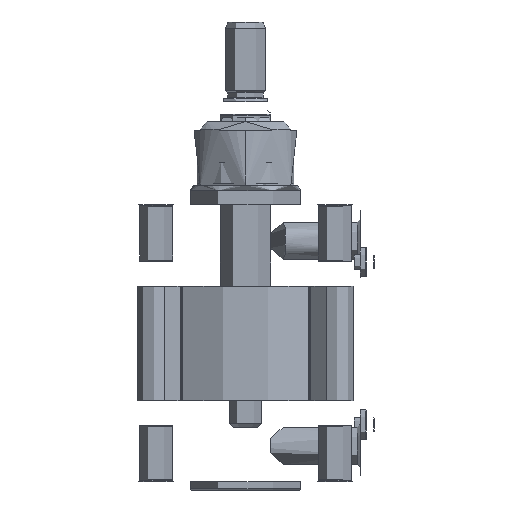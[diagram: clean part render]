
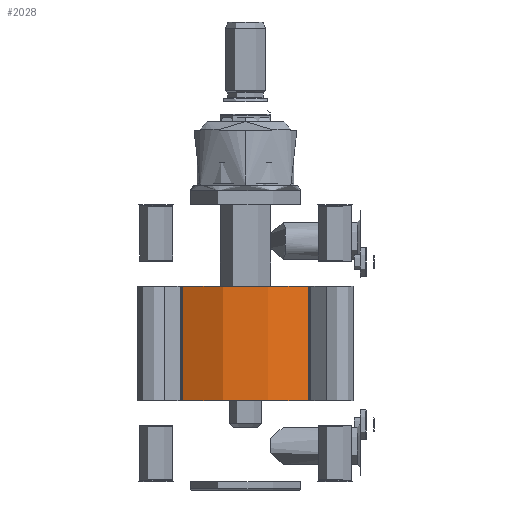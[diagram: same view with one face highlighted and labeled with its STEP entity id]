
A CAD part, front view. The second image highlights one B-rep face of the part: STEP entity #2028.
In plain terms, the highlighted cylindrical face has radius 53.5 mm (diameter 107 mm), a partial arc.
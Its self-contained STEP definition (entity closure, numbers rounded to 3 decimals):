
#2028=ADVANCED_FACE('2:72',(#4051),#4052,.T.);
#4051=FACE_OUTER_BOUND('',#6051,.T.);
#4052=CYLINDRICAL_SURFACE('',#6052,53.5);
#6051=EDGE_LOOP('',(#11490,#11491,#11492,#11493));
#6052=AXIS2_PLACEMENT_3D('',#11494,#11495,#11496);
#11490=ORIENTED_EDGE('',*,*,#13643,.F.);
#11491=ORIENTED_EDGE('',*,*,#13764,.T.);
#11492=ORIENTED_EDGE('',*,*,#13754,.F.);
#11493=ORIENTED_EDGE('',*,*,#13765,.T.);
#11494=CARTESIAN_POINT('',(0.0,0.0,0.0));
#11495=DIRECTION('',(0.0,0.0,-1.0));
#11496=DIRECTION('',(1.0,0.0,0.0));
#13643=EDGE_CURVE('2:237',#16631,#16633,#16634,.T.);
#13754=EDGE_CURVE('2:255',#16808,#16810,#16811,.T.);
#13764=EDGE_CURVE('2:276',#16631,#16810,#16823,.F.);
#13765=EDGE_CURVE('2:273',#16808,#16633,#16824,.T.);
#16631=VERTEX_POINT('',#21518);
#16633=VERTEX_POINT('',#21520);
#16634=LINE('',#21521,#21522);
#16808=VERTEX_POINT('',#21728);
#16810=VERTEX_POINT('',#21730);
#16811=LINE('',#21731,#21732);
#16823=CIRCLE('',#21747,53.5);
#16824=CIRCLE('',#21748,53.5);
#21518=CARTESIAN_POINT('',(31.266,-43.413,57.0));
#21520=CARTESIAN_POINT('',(31.266,-43.413,0.0));
#21521=CARTESIAN_POINT('',(31.266,-43.413,0.0));
#21522=VECTOR('',#24540,1.0);
#21728=CARTESIAN_POINT('',(-31.266,-43.413,0.0));
#21730=CARTESIAN_POINT('',(-31.266,-43.413,57.0));
#21731=CARTESIAN_POINT('',(-31.266,-43.413,0.0));
#21732=VECTOR('',#24729,1.0);
#21747=AXIS2_PLACEMENT_3D('',#24742,#24743,#24744);
#21748=AXIS2_PLACEMENT_3D('',#24745,#24746,#24747);
#24540=DIRECTION('',(-0.0,-0.0,-1.0));
#24729=DIRECTION('',(0.0,0.0,1.0));
#24742=CARTESIAN_POINT('',(0.0,0.0,57.0));
#24743=DIRECTION('',(0.0,0.0,1.0));
#24744=DIRECTION('',(1.0,0.0,0.0));
#24745=CARTESIAN_POINT('',(0.0,0.0,0.0));
#24746=DIRECTION('',(0.0,0.0,1.0));
#24747=DIRECTION('',(1.0,0.0,0.0));
